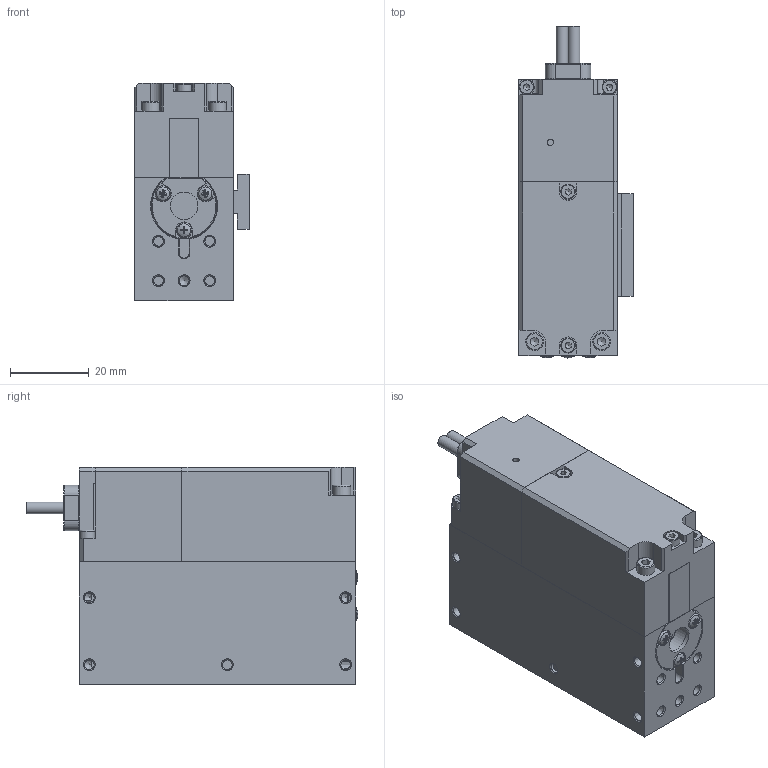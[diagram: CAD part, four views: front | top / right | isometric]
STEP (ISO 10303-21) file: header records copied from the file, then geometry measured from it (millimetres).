
FILE_DESCRIPTION((''),'2;1');
FILE_NAME('D:\SMAC-CAD\LCA\LCA25-3D-WEB\LCS25-010-1-3D_1.stp','2011-11-09T15:12:38',('ToanVu'),(''),'Autodesk Inventor 2008','Autodesk Inventor 2008','');
FILE_SCHEMA(('AUTOMOTIVE_DESIGN { 1 0 10303 214 1 1 1 1 }'));
Length unit declared in the file: millimetre
Products named in the file (10): LCS25-010-1-3D_1; HSG-CS25-10-5; MAGHSG25-010-5; COVER25-010-5; CABLE-G; Broached Socket Head Cap Screw - Metric M2x0.4 x 3; Broached Socket Head Cap Screw - Metric M2.5x0.45 x 25; 18548-01_A; BS EN ISO 7045 H - Metric M2 x 3 - 4.8 - H; 22975-01_1
Assembly tree (19 placements, depth 2):
  LCS25-010-1-3D_1
    HSG-CS25-10-5
    MAGHSG25-010-5
    COVER25-010-5
    CABLE-G
    Broached Socket Head Cap Screw - Metric M2x0.4 x 3  x6
    Broached Socket Head Cap Screw - Metric M2.5x0.45 x 25  x2
    18548-01_A
    BS EN ISO 7045 H - Metric M2 x 3 - 4.8 - H  x5
    22975-01_1
Bounding box: 29 x 84.09 x 55 mm (x, y, z)
Volume: 94163.9 mm3; surface area: 25820.9 mm2
Topology: 19 solids, 19 shells, 627 faces, 1552 edges, 998 vertices
Faces by surface type: plane 291, bspline 139, cone 89, cylinder 62, torus 41, sphere 5
Full cylindrical faces by diameter (mm): 1.783 x5, 2 x11, 2.5 x2, 3 x2, 3.8 x6, 4.5 x2, 7 x1, 8 x1, 9.5 x1, 11.1 x1, 14 x1
Entity records: 13632 total; most frequent: CARTESIAN_POINT 4418, DIRECTION 1756, ORIENTED_EDGE 1736, EDGE_CURVE 868, AXIS2_PLACEMENT_3D 639, VERTEX_POINT 621, EDGE_LOOP 620, VECTOR 478
